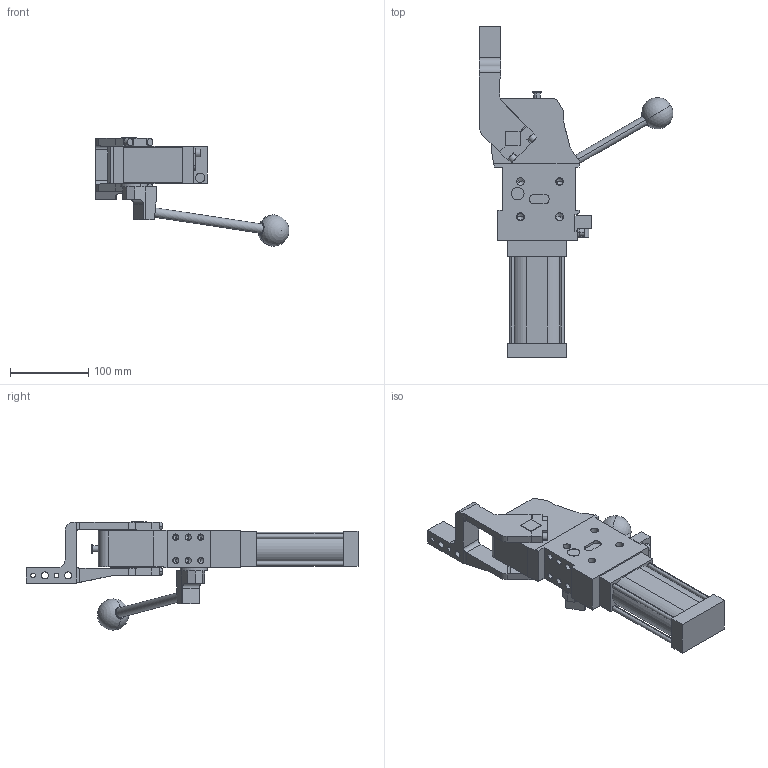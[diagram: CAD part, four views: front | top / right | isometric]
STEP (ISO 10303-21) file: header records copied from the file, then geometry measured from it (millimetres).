
FILE_DESCRIPTION (( 'STEP AP214' ), '1' );
FILE_NAME ('cplm50lbh1di1g_107.STEP', '2023-01-26T13:14:17', ( '' ), ( '' ), 'SwSTEP 2.0', 'SolidWorks 2022', '' );
FILE_SCHEMA (( 'AUTOMOTIVE_DESIGN' ));
Length unit declared in the file: millimetre
Products named in the file (5): leva_sx_offset_15_cpl50; cplm50lbh1di1g_107; blocchetto_VEP_0; meccanica_cplm_50; comando_manuale_cplm_50
Assembly tree (4 placements, depth 2):
  cplm50lbh1di1g_107
    meccanica_cplm_50
    blocchetto_VEP_0
    leva_sx_offset_15_cpl50
    comando_manuale_cplm_50
Bounding box: 247.96 x 424.5 x 138.5 mm (x, y, z)
Volume: 1469960 mm3; surface area: 181399.7 mm2
Topology: 4 solids, 4 shells, 431 faces, 1108 edges, 691 vertices
Faces by surface type: plane 212, cylinder 167, cone 50, sphere 2
Entity records: 14371 total; most frequent: DIRECTION 2277, CARTESIAN_POINT 2271, ORIENTED_EDGE 2114, EDGE_CURVE 1057, AXIS2_PLACEMENT_3D 792, LINE 693, VECTOR 693, VERTEX_POINT 688
